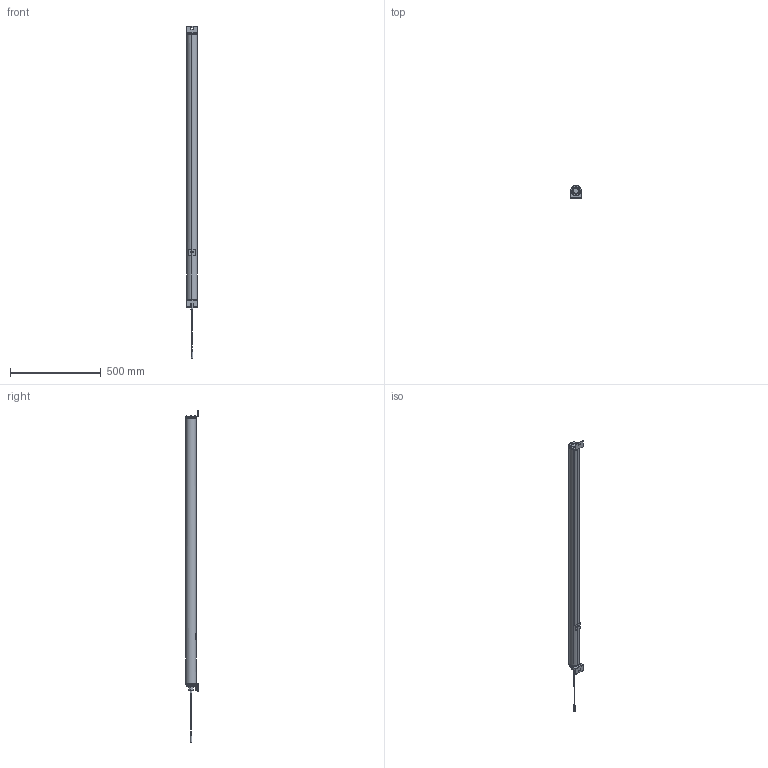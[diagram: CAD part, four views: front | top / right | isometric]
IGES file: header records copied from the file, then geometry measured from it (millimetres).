
Global section: file name: C:\ACADFILES\MG_PYLONS\CUSTOMER_FILES\MG-56-PYLON_3D_SMB_PT.igs; native system: AutoCAD-18.2s (LMS Tech) (Microsoft Windows NT Version 6.1 (x86)); preprocessor: Autodesk IGES Translator Mechanical Desktop 2011 (Feb 18 2011) from Autodesk, Inc.; date: 20140328.095006; units: inch
Bounding box: 57.29 x 69.85 x 1829.17 mm (x, y, z)
Surface area: 1125700.3 mm2 (no closed solid volume)
Topology: 0 solids, 0 shells, 1800 faces, 9329 edges, 9504 vertices
Faces by surface type: bspline 1800
